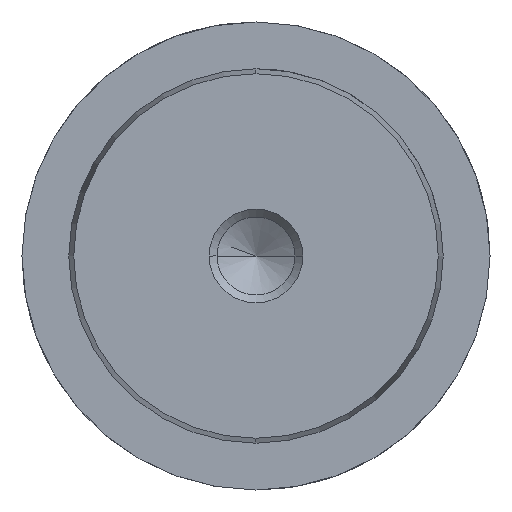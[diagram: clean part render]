
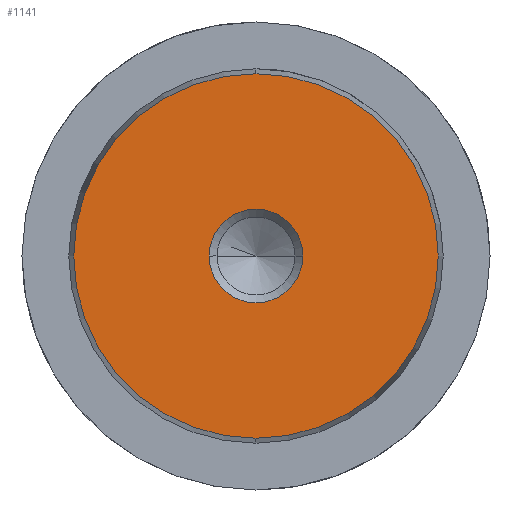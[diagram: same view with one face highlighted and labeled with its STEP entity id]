
A CAD part, left-side view. The second image highlights one B-rep face of the part: STEP entity #1141.
In plain terms, the highlighted planar face has unit normal (-1, 0, 0).
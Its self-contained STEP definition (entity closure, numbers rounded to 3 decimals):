
#1055=CARTESIAN_POINT('Vertex',(0.,0.,-15.578)) ;
#1058=CARTESIAN_POINT('Axis2P3D Location',(0.,0.,0.)) ;
#1062=CARTESIAN_POINT('Vertex',(0.,15.578,0.)) ;
#1065=CARTESIAN_POINT('Axis2P3D Location',(0.,0.,0.)) ;
#1069=CARTESIAN_POINT('Vertex',(0.,0.,15.578)) ;
#1091=CARTESIAN_POINT('Axis2P3D Location',(0.,0.,0.)) ;
#1095=CARTESIAN_POINT('Vertex',(0.,-15.578,0.)) ;
#1098=CARTESIAN_POINT('Axis2P3D Location',(0.,0.,0.)) ;
#1112=CARTESIAN_POINT('Axis2P3D Location',(0.,0.,0.)) ;
#1123=CARTESIAN_POINT('Axis2P3D Location',(0.,0.,0.)) ;
#1127=CARTESIAN_POINT('Vertex',(0.,4.,0.)) ;
#1129=CARTESIAN_POINT('Vertex',(0.,-4.,0.)) ;
#1132=CARTESIAN_POINT('Axis2P3D Location',(0.,0.,0.)) ;
#1059=DIRECTION('Axis2P3D Direction',(1.,-0.,0.)) ;
#1066=DIRECTION('Axis2P3D Direction',(1.,-0.,0.)) ;
#1092=DIRECTION('Axis2P3D Direction',(1.,0.,-0.)) ;
#1099=DIRECTION('Axis2P3D Direction',(1.,0.,-0.)) ;
#1113=DIRECTION('Axis2P3D Direction',(1.,0.,-0.)) ;
#1114=DIRECTION('Axis2P3D XDirection',(-0.,0.,-1.)) ;
#1124=DIRECTION('Axis2P3D Direction',(1.,0.,-0.)) ;
#1133=DIRECTION('Axis2P3D Direction',(1.,0.,-0.)) ;
#1060=AXIS2_PLACEMENT_3D('Circle Axis2P3D',#1058,#1059,$) ;
#1067=AXIS2_PLACEMENT_3D('Circle Axis2P3D',#1065,#1066,$) ;
#1093=AXIS2_PLACEMENT_3D('Circle Axis2P3D',#1091,#1092,$) ;
#1100=AXIS2_PLACEMENT_3D('Circle Axis2P3D',#1098,#1099,$) ;
#1115=AXIS2_PLACEMENT_3D('Plane Axis2P3D',#1112,#1113,#1114) ;
#1125=AXIS2_PLACEMENT_3D('Circle Axis2P3D',#1123,#1124,$) ;
#1134=AXIS2_PLACEMENT_3D('Circle Axis2P3D',#1132,#1133,$) ;
#1118=ORIENTED_EDGE('',*,*,#1064,.F.) ;
#1119=ORIENTED_EDGE('',*,*,#1102,.F.) ;
#1120=ORIENTED_EDGE('',*,*,#1097,.F.) ;
#1121=ORIENTED_EDGE('',*,*,#1071,.F.) ;
#1138=ORIENTED_EDGE('',*,*,#1131,.T.) ;
#1139=ORIENTED_EDGE('',*,*,#1136,.T.) ;
#1140=FACE_BOUND('',#1137,.T.) ;
#1141=ADVANCED_FACE('719-32x315',(#1122,#1140),#1116,.F.) ;
#1061=CIRCLE('generated circle',#1060,15.578) ;
#1068=CIRCLE('generated circle',#1067,15.578) ;
#1094=CIRCLE('generated circle',#1093,15.578) ;
#1101=CIRCLE('generated circle',#1100,15.578) ;
#1126=CIRCLE('generated circle',#1125,4.) ;
#1135=CIRCLE('generated circle',#1134,4.) ;
#1064=EDGE_CURVE('',#1056,#1063,#1061,.T.) ;
#1071=EDGE_CURVE('',#1063,#1070,#1068,.T.) ;
#1097=EDGE_CURVE('',#1070,#1096,#1094,.T.) ;
#1102=EDGE_CURVE('',#1096,#1056,#1101,.T.) ;
#1131=EDGE_CURVE('',#1128,#1130,#1126,.T.) ;
#1136=EDGE_CURVE('',#1130,#1128,#1135,.T.) ;
#1117=EDGE_LOOP('',(#1118,#1119,#1120,#1121)) ;
#1137=EDGE_LOOP('',(#1138,#1139)) ;
#1122=FACE_OUTER_BOUND('',#1117,.T.) ;
#1116=PLANE('Plane',#1115) ;
#1056=VERTEX_POINT('',#1055) ;
#1063=VERTEX_POINT('',#1062) ;
#1070=VERTEX_POINT('',#1069) ;
#1096=VERTEX_POINT('',#1095) ;
#1128=VERTEX_POINT('',#1127) ;
#1130=VERTEX_POINT('',#1129) ;
